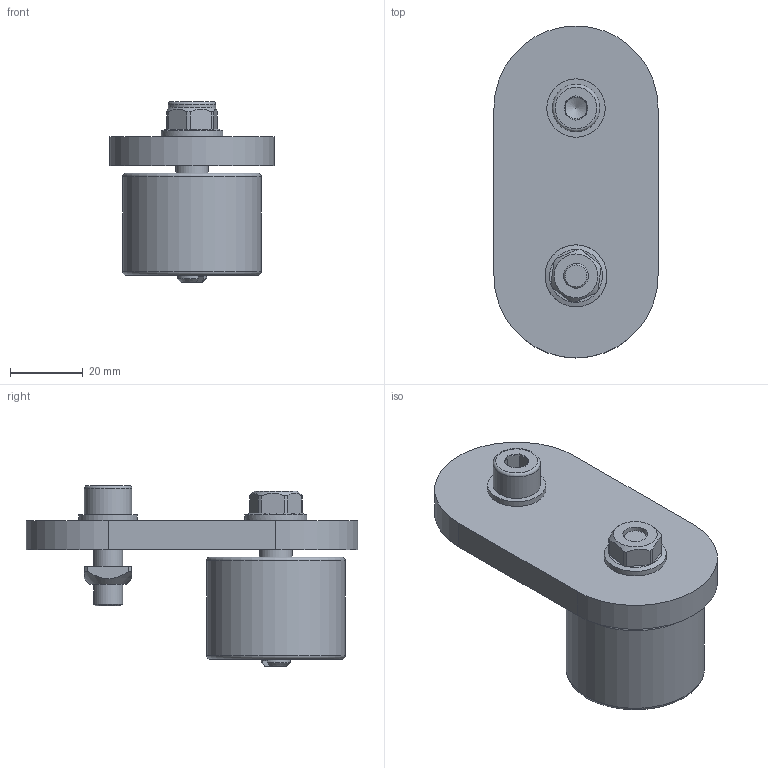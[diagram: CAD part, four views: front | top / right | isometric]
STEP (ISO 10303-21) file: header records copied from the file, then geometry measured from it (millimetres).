
FILE_DESCRIPTION (( 'STEP AP214' ), '1' );
FILE_NAME ('983-004-35.STEP', '2020-11-23T10:26:33', ( '' ), ( '' ), 'SwSTEP 2.0', 'SolidWorks 2020', '' );
FILE_SCHEMA (( 'AUTOMOTIVE_DESIGN' ));
Length unit declared in the file: millimetre
Products named in the file (9): 910-011; 983-004-35; CHC THE_910-053H; 982-010-35; 910-002_910-235; 983-003; 982-009; CHC M8X25 + RP8; RONDELLE_910-111
Assembly tree (8 placements, depth 4):
  983-004-35
    983-003
      982-009
      910-011
      CHC M8X25 + RP8
        CHC THE_910-053H
        RONDELLE_910-111
    982-010-35
    910-002_910-235
Bounding box: 45 x 91 x 49.6 mm (x, y, z)
Volume: 64940.1 mm3; surface area: 18492.2 mm2
Topology: 6 solids, 6 shells, 97 faces, 215 edges, 135 vertices
Faces by surface type: plane 51, cylinder 27, cone 15, torus 4
Full cylindrical faces by diameter (mm): 6 x1, 6.8 x2, 7.98 x1, 8 x3, 8.4 x1, 8.5 x2, 9 x1, 13 x1, 16 x1, 17 x1, 38 x1
Entity records: 3015 total; most frequent: CARTESIAN_POINT 610, DIRECTION 466, ORIENTED_EDGE 362, AXIS2_PLACEMENT_3D 195, EDGE_CURVE 181, EDGE_LOOP 138, VERTEX_POINT 127, FACE_OUTER_BOUND 116
